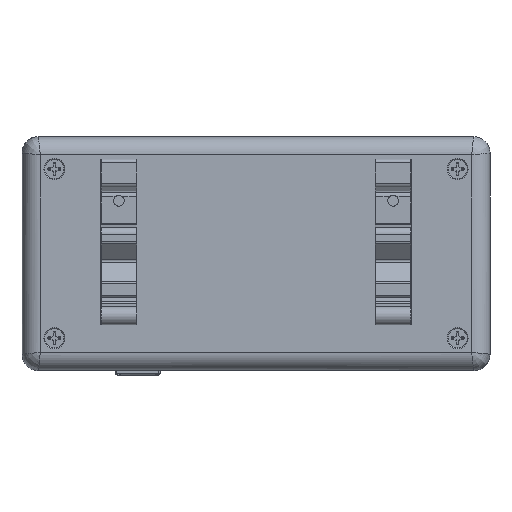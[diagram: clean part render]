
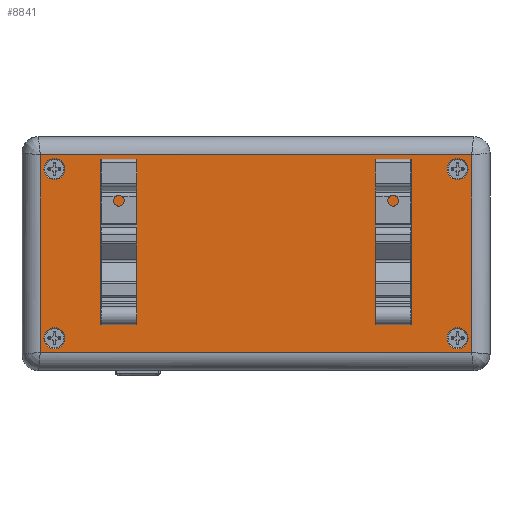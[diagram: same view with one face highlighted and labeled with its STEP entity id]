
A CAD part, top view. The second image highlights one B-rep face of the part: STEP entity #8841.
In plain terms, the highlighted planar face has unit normal (0, 0, 1).
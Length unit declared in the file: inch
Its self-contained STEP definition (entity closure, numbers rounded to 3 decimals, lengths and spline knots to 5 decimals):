
#1458 = AXIS2_PLACEMENT_3D ( 'NONE', #20875, #82336, #29708 ) ;
#4023 = LINE ( 'NONE', #24903, #47970 ) ;
#4685 = EDGE_LOOP ( 'NONE', ( #101011 ) ) ;
#8841 = ADVANCED_FACE ( 'NONE', ( #40227, #110395, #87025, #43011, #16891 ), #29313, .F. ) ;
#9181 = DIRECTION ( 'NONE',  ( 1., 0., 0. ) ) ;
#12351 = VERTEX_POINT ( 'NONE', #99040 ) ;
#14203 = DIRECTION ( 'NONE',  ( 0., 0., 1. ) ) ;
#15619 = LINE ( 'NONE', #83938, #36219 ) ;
#16891 = FACE_OUTER_BOUND ( 'NONE', #46118, .T. ) ;
#18009 = CARTESIAN_POINT ( 'NONE',  ( 2.35924, 1.07971, 0.31496 ) ) ;
#18058 = ORIENTED_EDGE ( 'NONE', *, *, #43140, .F. ) ;
#20875 = CARTESIAN_POINT ( 'NONE',  ( 0., 0., 0.31496 ) ) ;
#21764 = CARTESIAN_POINT ( 'NONE',  ( 2.08957, -0.9252, 0.31496 ) ) ;
#22266 = EDGE_CURVE ( 'NONE', #37091, #98392, #25309, .T. ) ;
#22580 = EDGE_CURVE ( 'NONE', #98392, #52632, #15619, .T. ) ;
#23585 = EDGE_CURVE ( 'NONE', #52632, #63019, #4023, .T. ) ;
#24903 = CARTESIAN_POINT ( 'NONE',  ( 0., -1.07971, 0.31496 ) ) ;
#25309 = LINE ( 'NONE', #61694, #72023 ) ;
#29313 = PLANE ( 'NONE',  #1458 ) ;
#29708 = DIRECTION ( 'NONE',  ( 1., 0., 0. ) ) ;
#31038 = CARTESIAN_POINT ( 'NONE',  ( -2.35924, 0., 0.31496 ) ) ;
#31220 = ORIENTED_EDGE ( 'NONE', *, *, #61257, .F. ) ;
#31802 = LINE ( 'NONE', #31038, #99192 ) ;
#36219 = VECTOR ( 'NONE', #66634, 39.37008 ) ;
#36532 = DIRECTION ( 'NONE',  ( 0., 0., 1. ) ) ;
#37091 = VERTEX_POINT ( 'NONE', #113441 ) ;
#39725 = VERTEX_POINT ( 'NONE', #73566 ) ;
#40227 = FACE_BOUND ( 'NONE', #84513, .T. ) ;
#43011 = FACE_BOUND ( 'NONE', #4685, .T. ) ;
#43140 = EDGE_CURVE ( 'NONE', #12351, #12351, #99800, .T. ) ;
#46118 = EDGE_LOOP ( 'NONE', ( #62304, #89815, #31220, #106138 ) ) ;
#47970 = VECTOR ( 'NONE', #95233, 39.37008 ) ;
#50863 = CARTESIAN_POINT ( 'NONE',  ( 2.20472, 0.9252, 0.31496 ) ) ;
#51536 = CARTESIAN_POINT ( 'NONE',  ( 2.20472, -0.9252, 0.31496 ) ) ;
#52632 = VERTEX_POINT ( 'NONE', #93196 ) ;
#53137 = AXIS2_PLACEMENT_3D ( 'NONE', #51536, #113116, #60360 ) ;
#53923 = AXIS2_PLACEMENT_3D ( 'NONE', #66788, #14203, #75582 ) ;
#56648 = CARTESIAN_POINT ( 'NONE',  ( 2.08957, 0.9252, 0.31496 ) ) ;
#57502 = EDGE_LOOP ( 'NONE', ( #64927 ) ) ;
#59677 = DIRECTION ( 'NONE',  ( -1., 0., 0. ) ) ;
#60360 = DIRECTION ( 'NONE',  ( -1., 0., 0. ) ) ;
#61257 = EDGE_CURVE ( 'NONE', #63019, #37091, #31802, .T. ) ;
#61694 = CARTESIAN_POINT ( 'NONE',  ( 0., 1.07971, 0.31496 ) ) ;
#62304 = ORIENTED_EDGE ( 'NONE', *, *, #22580, .F. ) ;
#62963 = EDGE_CURVE ( 'NONE', #39725, #39725, #82108, .T. ) ;
#63019 = VERTEX_POINT ( 'NONE', #82580 ) ;
#64927 = ORIENTED_EDGE ( 'NONE', *, *, #80425, .F. ) ;
#65263 = EDGE_LOOP ( 'NONE', ( #68899 ) ) ;
#66634 = DIRECTION ( 'NONE',  ( 0., -1., 0. ) ) ;
#66788 = CARTESIAN_POINT ( 'NONE',  ( -2.20472, -0.9252, 0.31496 ) ) ;
#68899 = ORIENTED_EDGE ( 'NONE', *, *, #76327, .F. ) ;
#72023 = VECTOR ( 'NONE', #9181, 39.37008 ) ;
#73566 = CARTESIAN_POINT ( 'NONE',  ( -2.31988, 0.9252, 0.31496 ) ) ;
#75582 = DIRECTION ( 'NONE',  ( -1., 0., 0. ) ) ;
#76327 = EDGE_CURVE ( 'NONE', #96138, #96138, #100715, .T. ) ;
#80425 = EDGE_CURVE ( 'NONE', #93366, #93366, #83520, .T. ) ;
#82108 = CIRCLE ( 'NONE', #104829, 0.11516 ) ;
#82336 = DIRECTION ( 'NONE',  ( 0., 0., -1. ) ) ;
#82580 = CARTESIAN_POINT ( 'NONE',  ( -2.35924, -1.07971, 0.31496 ) ) ;
#83520 = CIRCLE ( 'NONE', #53137, 0.11516 ) ;
#83938 = CARTESIAN_POINT ( 'NONE',  ( 2.35924, 0., 0.31496 ) ) ;
#84513 = EDGE_LOOP ( 'NONE', ( #18058 ) ) ;
#87025 = FACE_BOUND ( 'NONE', #57502, .T. ) ;
#89214 = CARTESIAN_POINT ( 'NONE',  ( -2.20472, 0.9252, 0.31496 ) ) ;
#89815 = ORIENTED_EDGE ( 'NONE', *, *, #22266, .F. ) ;
#93196 = CARTESIAN_POINT ( 'NONE',  ( 2.35924, -1.07971, 0.31496 ) ) ;
#93285 = AXIS2_PLACEMENT_3D ( 'NONE', #50863, #112451, #59677 ) ;
#93366 = VERTEX_POINT ( 'NONE', #21764 ) ;
#95233 = DIRECTION ( 'NONE',  ( -1., 0., 0. ) ) ;
#96138 = VERTEX_POINT ( 'NONE', #56648 ) ;
#98033 = DIRECTION ( 'NONE',  ( -1., 0., 0. ) ) ;
#98392 = VERTEX_POINT ( 'NONE', #18009 ) ;
#99040 = CARTESIAN_POINT ( 'NONE',  ( -2.31988, -0.9252, 0.31496 ) ) ;
#99192 = VECTOR ( 'NONE', #110174, 39.37008 ) ;
#99800 = CIRCLE ( 'NONE', #53923, 0.11516 ) ;
#100715 = CIRCLE ( 'NONE', #93285, 0.11516 ) ;
#101011 = ORIENTED_EDGE ( 'NONE', *, *, #62963, .F. ) ;
#104829 = AXIS2_PLACEMENT_3D ( 'NONE', #89214, #36532, #98033 ) ;
#106138 = ORIENTED_EDGE ( 'NONE', *, *, #23585, .F. ) ;
#110174 = DIRECTION ( 'NONE',  ( 0., 1., 0. ) ) ;
#110395 = FACE_BOUND ( 'NONE', #65263, .T. ) ;
#112451 = DIRECTION ( 'NONE',  ( 0., 0., 1. ) ) ;
#113116 = DIRECTION ( 'NONE',  ( 0., 0., 1. ) ) ;
#113441 = CARTESIAN_POINT ( 'NONE',  ( -2.35924, 1.07971, 0.31496 ) ) ;
